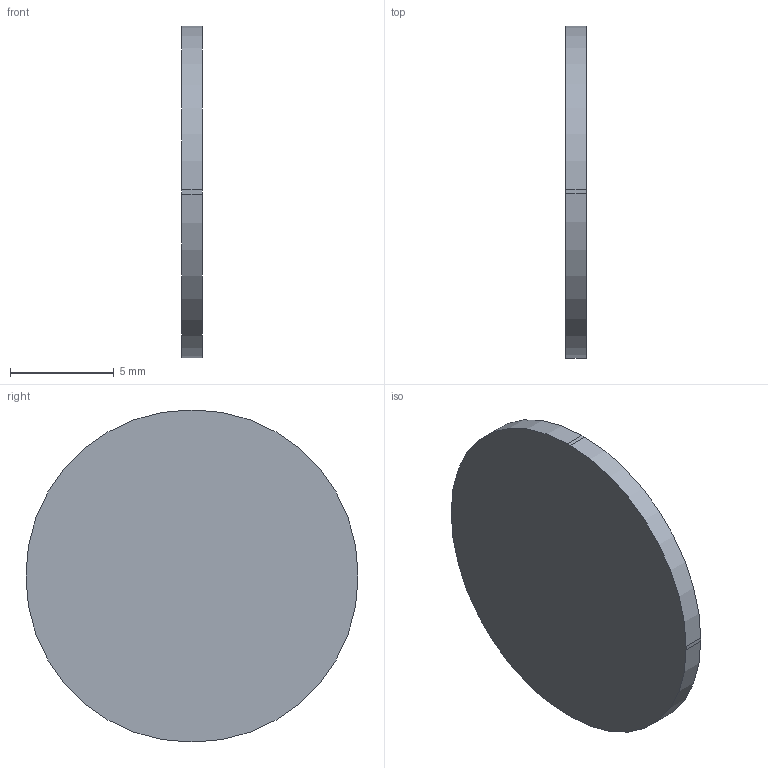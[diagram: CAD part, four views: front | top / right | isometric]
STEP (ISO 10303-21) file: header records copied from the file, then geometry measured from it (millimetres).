
FILE_DESCRIPTION(('Open CASCADE Model'),'2;1');
FILE_NAME('Open CASCADE Shape Model','2026-09-06T11:30:50',('Author'),( 'Open CASCADE'),'Open CASCADE STEP processor 7.7','Open CASCADE 7.7' ,'Unknown');
FILE_SCHEMA(('AUTOMOTIVE_DESIGN { 1 0 10303 214 1 1 1 1 }'));
Length unit declared in the file: millimetre
Products named in the file (1): Open CASCADE STEP translator 7.7 27
Bounding box: 1 x 16 x 16 mm (x, y, z)
Volume: 198.6 mm3; surface area: 463.7 mm2
Topology: 1 solids, 1 shells, 23 faces, 60 edges, 40 vertices
Faces by surface type: plane 19, cylinder 4
Entity records: 1504 total; most frequent: CARTESIAN_POINT 268, DIRECTION 232, LINE 164, VECTOR 164, ORIENTED_EDGE 120, PCURVE 120, DEFINITIONAL_REPRESENTATION 120, EDGE_CURVE 60
